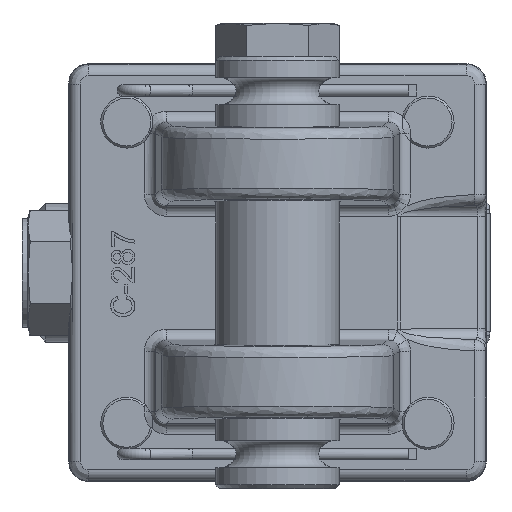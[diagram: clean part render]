
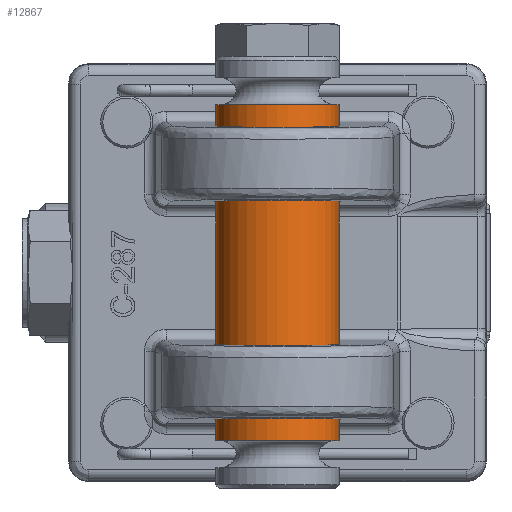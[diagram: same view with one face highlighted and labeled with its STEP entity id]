
A CAD part, left-side view. The second image highlights one B-rep face of the part: STEP entity #12867.
In plain terms, the highlighted cylindrical face has radius 12.7 mm (diameter 25.4 mm), a full revolution.
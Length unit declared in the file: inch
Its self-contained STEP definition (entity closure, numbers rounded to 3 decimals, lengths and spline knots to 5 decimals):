
#12763=CARTESIAN_POINT('',(-1.35975,0.5,0.));
#12764=VERTEX_POINT('',#12763);
#12765=CARTESIAN_POINT('',(-1.35975,0.0,0.0));
#12766=DIRECTION('',(1.0,0.0,0.0));
#12767=DIRECTION('',(0.0,-1.0,0.0));
#12768=AXIS2_PLACEMENT_3D('',#12765,#12766,#12767);
#12769=CIRCLE('',#12768,0.5);
#12770=EDGE_CURVE('',#12764,#12764,#12769,.T.);
#12795=CARTESIAN_POINT('',(1.35975,0.5,0.));
#12796=VERTEX_POINT('',#12795);
#12797=CARTESIAN_POINT('',(1.35975,0.0,0.0));
#12798=DIRECTION('',(-1.0,0.0,0.0));
#12799=DIRECTION('',(0.0,-1.0,0.0));
#12800=AXIS2_PLACEMENT_3D('',#12797,#12798,#12799);
#12801=CIRCLE('',#12800,0.5);
#12802=EDGE_CURVE('',#12796,#12796,#12801,.T.);
#12856=CARTESIAN_POINT('',(0.0,0.0,0.0));
#12857=DIRECTION('',(1.0,0.0,0.0));
#12858=DIRECTION('',(0.0,-1.0,0.0));
#12859=AXIS2_PLACEMENT_3D('',#12856,#12857,#12858);
#12860=CYLINDRICAL_SURFACE('',#12859,0.5);
#12861=ORIENTED_EDGE('',*,*,#12770,.T.);
#12862=EDGE_LOOP('',(#12861));
#12863=FACE_OUTER_BOUND('',#12862,.T.);
#12864=ORIENTED_EDGE('',*,*,#12802,.T.);
#12865=EDGE_LOOP('',(#12864));
#12866=FACE_BOUND('',#12865,.T.);
#12867=ADVANCED_FACE('',(#12863,#12866),#12860,.T.);
